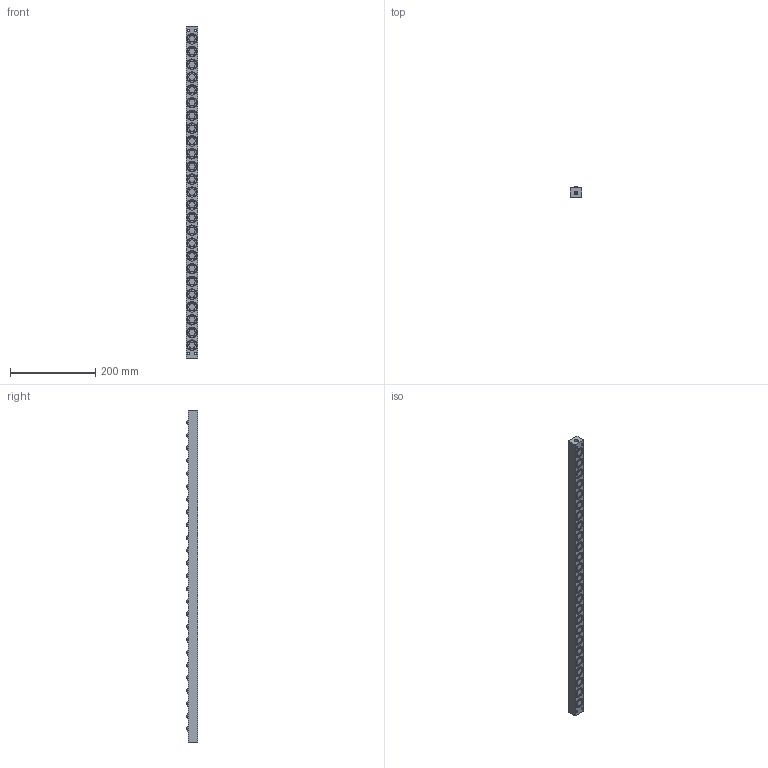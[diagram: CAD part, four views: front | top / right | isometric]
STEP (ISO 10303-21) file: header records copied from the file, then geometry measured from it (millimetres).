
FILE_DESCRIPTION (( 'STEP AP203' ), '1' );
FILE_NAME ('PVL17S-25.STEP', '2016-02-18T04:21:53', ( '' ), ( '' ), 'SwSTEP 2.0', 'SolidWorks 2013', '' );
FILE_SCHEMA (( 'CONFIG_CONTROL_DESIGN' ));
Length unit declared in the file: millimetre
Products named in the file (1): PVL17S-25
Bounding box: 28 x 26 x 780 mm (x, y, z)
Volume: 470797 mm3; surface area: 106896.4 mm2
Topology: 1 solids, 1 shells, 808 faces, 1901 edges, 1274 vertices
Faces by surface type: cylinder 518, plane 236, sphere 50, cone 4
Entity records: 23958 total; most frequent: DIRECTION 4707, CARTESIAN_POINT 3982, ORIENTED_EDGE 3798, AXIS2_PLACEMENT_3D 1999, EDGE_CURVE 1899, VERTEX_POINT 1274, CIRCLE 1190, EDGE_LOOP 997
